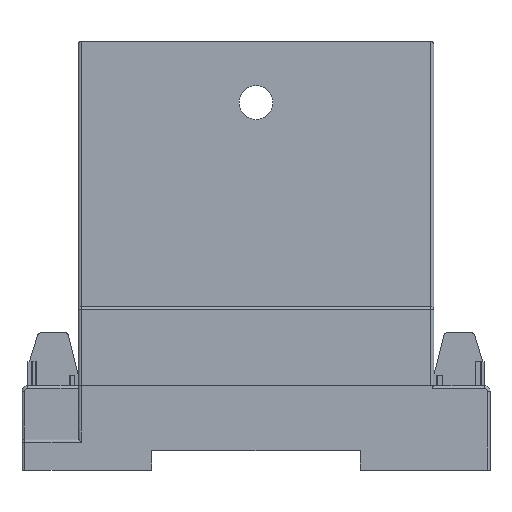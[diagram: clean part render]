
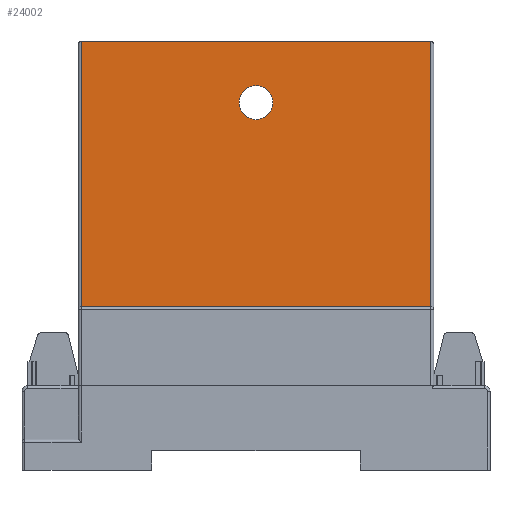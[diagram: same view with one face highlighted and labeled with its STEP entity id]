
A CAD part, left-side view. The second image highlights one B-rep face of the part: STEP entity #24002.
In plain terms, the highlighted planar face has unit normal (-1, 0, 0).
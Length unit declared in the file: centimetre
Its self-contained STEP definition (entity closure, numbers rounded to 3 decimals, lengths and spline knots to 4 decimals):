
#4118=VERTEX_POINT('',#46590);
#4119=VERTEX_POINT('',#46594);
#4133=VERTEX_POINT('',#46644);
#4136=VERTEX_POINT('',#46652);
#4153=VERTEX_POINT('',#46724);
#7080=EDGE_CURVE('',#4119,#4118,#27441,.T.);
#7110=EDGE_CURVE('',#4133,#4136,#27462,.T.);
#7149=EDGE_CURVE('',#4153,#4153,#25686,.T.);
#7150=EDGE_CURVE('',#4119,#4136,#27489,.T.);
#7151=EDGE_CURVE('',#4118,#4133,#27490,.T.);
#11799=ORIENTED_EDGE('',*,*,#7080,.F.);
#11800=ORIENTED_EDGE('',*,*,#7150,.T.);
#11801=ORIENTED_EDGE('',*,*,#7110,.F.);
#11802=ORIENTED_EDGE('',*,*,#7151,.F.);
#11803=ORIENTED_EDGE('',*,*,#7149,.T.);
#20425=EDGE_LOOP('',(#11799,#11800,#11801,#11802));
#20426=EDGE_LOOP('',(#11803));
#22216=FACE_BOUND('',#20425,.T.);
#22217=FACE_BOUND('',#20426,.T.);
#24002=ADVANCED_FACE('',(#22216,#22217),#37344,.T.);
#25686=CIRCLE('',#31750,0.3);
#27441=LINE('',#46593,#34305);
#27462=LINE('',#46651,#34326);
#27489=LINE('',#46726,#34353);
#27490=LINE('',#46727,#34354);
#31750=AXIS2_PLACEMENT_3D('',#46723,#39288,#39289);
#31751=AXIS2_PLACEMENT_3D('',#46725,#39290,$);
#34305=VECTOR('',#39150,1.);
#34326=VECTOR('',#39211,1.);
#34353=VECTOR('',#39291,1.);
#34354=VECTOR('',#39292,1.);
#37344=PLANE('',#31751);
#39150=DIRECTION('',(0.,0.,-1.));
#39211=DIRECTION('',(0.,0.,1.));
#39288=DIRECTION('',(1.,0.,0.));
#39289=DIRECTION('',(0.,0.,0.3));
#39290=DIRECTION('',(-1.,0.,0.));
#39291=DIRECTION('',(0.,1.,0.));
#39292=DIRECTION('',(0.,1.,0.));
#46590=CARTESIAN_POINT('',(-3.2286,1.0466,2.9));
#46593=CARTESIAN_POINT('',(-3.2286,1.0466,2.2));
#46594=CARTESIAN_POINT('',(-3.2286,1.0466,7.6));
#46644=CARTESIAN_POINT('',(-3.2286,7.2534,2.9));
#46651=CARTESIAN_POINT('',(-3.2286,7.2534,2.2));
#46652=CARTESIAN_POINT('',(-3.2286,7.2534,7.6));
#46723=CARTESIAN_POINT('',(-3.2286,4.15,6.52));
#46724=CARTESIAN_POINT('',(-3.2286,4.15,6.82));
#46725=CARTESIAN_POINT('',(-3.2286,4.15,2.9));
#46726=CARTESIAN_POINT('',(-3.2286,7.3034,7.6));
#46727=CARTESIAN_POINT('',(-3.2286,4.15,2.9));
